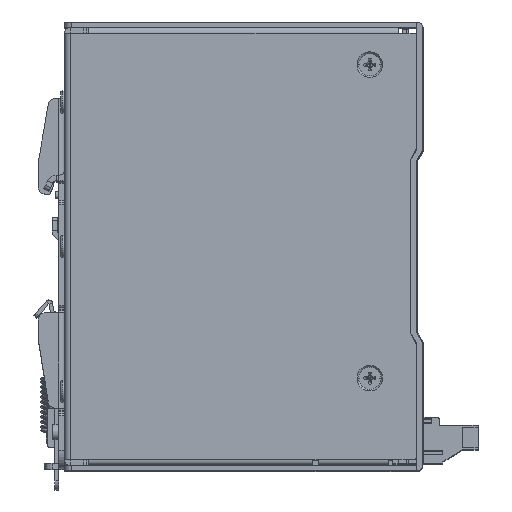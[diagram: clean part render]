
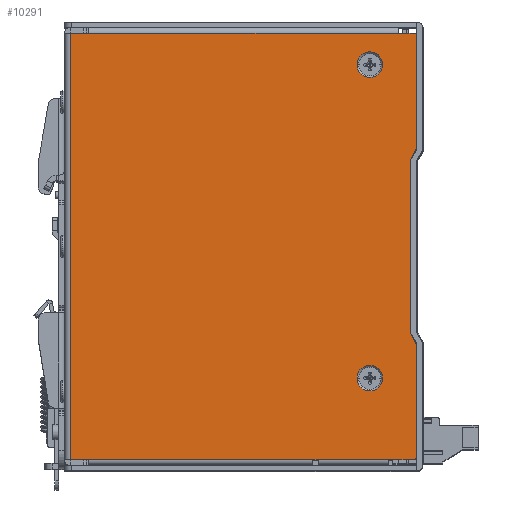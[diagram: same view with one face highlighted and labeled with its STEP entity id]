
A CAD part, top view. The second image highlights one B-rep face of the part: STEP entity #10291.
In plain terms, the highlighted planar face has unit normal (0, 0, 1) as drawn and (1, 0, 0) by its records, which use the part's own axes.
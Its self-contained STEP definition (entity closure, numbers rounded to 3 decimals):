
#1730=CARTESIAN_POINT('',(72.,80.8,49.));
#1731=DIRECTION('',(-1.,0.,0.));
#1732=DIRECTION('',(0.,-1.,0.));
#1733=AXIS2_PLACEMENT_3D('',#1730,#1731,#1732);
#1738=CARTESIAN_POINT('',(72.,80.8,49.));
#1739=DIRECTION('',(-1.,0.,0.));
#1740=DIRECTION('',(0.,1.,0.));
#1741=AXIS2_PLACEMENT_3D('',#1738,#1739,#1740);
#1746=CARTESIAN_POINT('',(72.,80.8,-35.5));
#1747=DIRECTION('',(-1.,0.,0.));
#1748=DIRECTION('',(0.,-1.,0.));
#1749=AXIS2_PLACEMENT_3D('',#1746,#1747,#1748);
#1754=CARTESIAN_POINT('',(72.,80.8,-35.5));
#1755=DIRECTION('',(-1.,0.,0.));
#1756=DIRECTION('',(0.,1.,0.));
#1757=AXIS2_PLACEMENT_3D('',#1754,#1755,#1756);
#1762=CARTESIAN_POINT('',(72.,92.5,56.5));
#1763=DIRECTION('',(1.,0.,0.));
#1764=DIRECTION('',(0.,1.,0.));
#1765=AXIS2_PLACEMENT_3D('',#1762,#1763,#1764);
#1770=DIRECTION('',(0.,0.,-1.));
#1771=VECTOR('',#1770,29.506);
#1772=CARTESIAN_POINT('',(72.,93.5,56.5));
#1773=LINE('',#1772,#1771);
#1777=DIRECTION('',(0.,0.407,0.914));
#1778=VECTOR('',#1777,3.934);
#1779=CARTESIAN_POINT('',(72.,91.9,23.4));
#1780=LINE('',#1779,#1778);
#1784=DIRECTION('',(0.,0.,1.));
#1785=VECTOR('',#1784,46.8);
#1786=CARTESIAN_POINT('',(72.,91.9,-23.4));
#1787=LINE('',#1786,#1785);
#1791=DIRECTION('',(0.,-0.407,0.914));
#1792=VECTOR('',#1791,3.934);
#1793=CARTESIAN_POINT('',(72.,93.5,-26.994));
#1794=LINE('',#1793,#1792);
#1798=DIRECTION('',(0.,0.,-1.));
#1799=VECTOR('',#1798,29.506);
#1800=CARTESIAN_POINT('',(72.,93.5,-26.994));
#1801=LINE('',#1800,#1799);
#1805=CARTESIAN_POINT('',(72.,92.5,-56.5));
#1806=DIRECTION('',(1.,0.,0.));
#1807=DIRECTION('',(0.,0.,-1.));
#1808=AXIS2_PLACEMENT_3D('',#1805,#1806,#1807);
#1813=DIRECTION('',(0.,-1.,0.));
#1814=VECTOR('',#1813,6.6);
#1815=CARTESIAN_POINT('',(72.,92.5,-57.5));
#1816=LINE('',#1815,#1814);
#1820=DIRECTION('',(0.,-1.,0.));
#1821=VECTOR('',#1820,1.5);
#1822=CARTESIAN_POINT('',(72.,66.9,-57.5));
#1823=LINE('',#1822,#1821);
#1827=DIRECTION('',(0.,1.,0.));
#1828=VECTOR('',#1827,5.);
#1829=CARTESIAN_POINT('',(72.,0.,-57.5));
#1830=LINE('',#1829,#1828);
#1834=DIRECTION('',(0.,0.,1.));
#1835=VECTOR('',#1834,115.);
#1836=CARTESIAN_POINT('',(72.,0.,-57.5));
#1837=LINE('',#1836,#1835);
#1841=DIRECTION('',(0.,1.,0.));
#1842=VECTOR('',#1841,5.);
#1843=CARTESIAN_POINT('',(72.,0.,57.5));
#1844=LINE('',#1843,#1842);
#1848=DIRECTION('',(0.,-1.,0.));
#1849=VECTOR('',#1848,4.);
#1850=CARTESIAN_POINT('',(72.,92.5,57.5));
#1851=LINE('',#1850,#1849);
#1950=DIRECTION('',(0.,-1.,0.));
#1951=VECTOR('',#1950,83.5);
#1952=CARTESIAN_POINT('',(72.,88.5,57.5));
#1953=LINE('',#1952,#1951);
#2362=DIRECTION('',(0.,-1.,0.));
#2363=VECTOR('',#2362,19.);
#2364=CARTESIAN_POINT('',(72.,85.9,-57.5));
#2365=LINE('',#2364,#2363);
#3067=DIRECTION('',(0.,1.,0.));
#3068=VECTOR('',#3067,60.4);
#3069=CARTESIAN_POINT('',(72.,5.,-57.5));
#3070=LINE('',#3069,#3068);
#8357=CARTESIAN_POINT('',(72.,93.5,-26.994));
#8359=VERTEX_POINT('',#8357);
#8405=CARTESIAN_POINT('',(72.,0.,57.5));
#8406=CARTESIAN_POINT('',(72.,5.,57.5));
#8407=VERTEX_POINT('',#8405);
#8408=VERTEX_POINT('',#8406);
#8409=CARTESIAN_POINT('',(72.,88.5,57.5));
#8411=VERTEX_POINT('',#8409);
#8443=CARTESIAN_POINT('',(72.,0.,-57.5));
#8444=CARTESIAN_POINT('',(72.,5.,-57.5));
#8445=VERTEX_POINT('',#8443);
#8446=VERTEX_POINT('',#8444);
#8447=CARTESIAN_POINT('',(72.,65.4,-57.5));
#8449=VERTEX_POINT('',#8447);
#8549=CARTESIAN_POINT('',(72.,85.9,-57.5));
#8551=VERTEX_POINT('',#8549);
#8561=CARTESIAN_POINT('',(72.,66.9,-57.5));
#8563=VERTEX_POINT('',#8561);
#8717=CARTESIAN_POINT('',(72.,93.5,56.5));
#8718=CARTESIAN_POINT('',(72.,92.5,57.5));
#8719=VERTEX_POINT('',#8717);
#8720=VERTEX_POINT('',#8718);
#8753=CARTESIAN_POINT('',(72.,92.5,-57.5));
#8754=VERTEX_POINT('',#8753);
#8755=CARTESIAN_POINT('',(72.,93.5,-56.5));
#8756=VERTEX_POINT('',#8755);
#8757=CARTESIAN_POINT('',(72.,93.5,26.994));
#8758=VERTEX_POINT('',#8757);
#8817=CARTESIAN_POINT('',(72.,77.35,49.));
#8818=CARTESIAN_POINT('',(72.,84.25,49.));
#8819=VERTEX_POINT('',#8817);
#8820=VERTEX_POINT('',#8818);
#8825=CARTESIAN_POINT('',(72.,77.35,-35.5));
#8826=CARTESIAN_POINT('',(72.,84.25,-35.5));
#8827=VERTEX_POINT('',#8825);
#8828=VERTEX_POINT('',#8826);
#8953=CARTESIAN_POINT('',(72.,91.9,23.4));
#8954=VERTEX_POINT('',#8953);
#8955=CARTESIAN_POINT('',(72.,91.9,-23.4));
#8956=VERTEX_POINT('',#8955);
#10244=CARTESIAN_POINT('',(72.,0.,57.5));
#10245=DIRECTION('',(-1.,0.,0.));
#10246=DIRECTION('',(0.,0.,1.));
#10247=AXIS2_PLACEMENT_3D('',#10244,#10245,#10246);
#10248=PLANE('',#10247);
#10250=ORIENTED_EDGE('',*,*,#10249,.F.);
#10252=ORIENTED_EDGE('',*,*,#10251,.T.);
#10254=ORIENTED_EDGE('',*,*,#10253,.F.);
#10256=ORIENTED_EDGE('',*,*,#10255,.F.);
#10258=ORIENTED_EDGE('',*,*,#10257,.F.);
#10260=ORIENTED_EDGE('',*,*,#10259,.T.);
#10262=ORIENTED_EDGE('',*,*,#10261,.F.);
#10264=ORIENTED_EDGE('',*,*,#10263,.T.);
#10266=ORIENTED_EDGE('',*,*,#10265,.T.);
#10268=ORIENTED_EDGE('',*,*,#10267,.T.);
#10270=ORIENTED_EDGE('',*,*,#10269,.F.);
#10271=ORIENTED_EDGE('',*,*,#10124,.F.);
#10272=ORIENTED_EDGE('',*,*,#10142,.T.);
#10273=ORIENTED_EDGE('',*,*,#10156,.T.);
#10275=ORIENTED_EDGE('',*,*,#10274,.F.);
#10277=ORIENTED_EDGE('',*,*,#10276,.F.);
#10278=EDGE_LOOP('',(#10250,#10252,#10254,#10256,#10258,#10260,#10262,#10264,
#10266,#10268,#10270,#10271,#10272,#10273,#10275,#10277));
#10279=FACE_OUTER_BOUND('',#10278,.F.);
#10281=ORIENTED_EDGE('',*,*,#10280,.F.);
#10283=ORIENTED_EDGE('',*,*,#10282,.F.);
#10284=EDGE_LOOP('',(#10281,#10283));
#10285=FACE_BOUND('',#10284,.F.);
#10287=ORIENTED_EDGE('',*,*,#10286,.F.);
#10288=ORIENTED_EDGE('',*,*,#10234,.F.);
#10289=EDGE_LOOP('',(#10287,#10288));
#10290=FACE_BOUND('',#10289,.F.);
#1734=CIRCLE('',#1733,3.45);
#1742=CIRCLE('',#1741,3.45);
#1750=CIRCLE('',#1749,3.45);
#1758=CIRCLE('',#1757,3.45);
#1766=CIRCLE('',#1765,1.);
#1809=CIRCLE('',#1808,1.);
#10124=EDGE_CURVE('',#8445,#8446,#1830,.T.);
#10142=EDGE_CURVE('',#8445,#8407,#1837,.T.);
#10156=EDGE_CURVE('',#8407,#8408,#1844,.T.);
#10234=EDGE_CURVE('',#8820,#8819,#1742,.T.);
#10249=EDGE_CURVE('',#8719,#8720,#1766,.T.);
#10251=EDGE_CURVE('',#8719,#8758,#1773,.T.);
#10253=EDGE_CURVE('',#8954,#8758,#1780,.T.);
#10255=EDGE_CURVE('',#8956,#8954,#1787,.T.);
#10257=EDGE_CURVE('',#8359,#8956,#1794,.T.);
#10259=EDGE_CURVE('',#8359,#8756,#1801,.T.);
#10261=EDGE_CURVE('',#8754,#8756,#1809,.T.);
#10263=EDGE_CURVE('',#8754,#8551,#1816,.T.);
#10265=EDGE_CURVE('',#8551,#8563,#2365,.T.);
#10267=EDGE_CURVE('',#8563,#8449,#1823,.T.);
#10269=EDGE_CURVE('',#8446,#8449,#3070,.T.);
#10274=EDGE_CURVE('',#8411,#8408,#1953,.T.);
#10276=EDGE_CURVE('',#8720,#8411,#1851,.T.);
#10280=EDGE_CURVE('',#8827,#8828,#1750,.T.);
#10282=EDGE_CURVE('',#8828,#8827,#1758,.T.);
#10286=EDGE_CURVE('',#8819,#8820,#1734,.T.);
#10291=ADVANCED_FACE('',(#10279,#10285,#10290),#10248,.F.);
